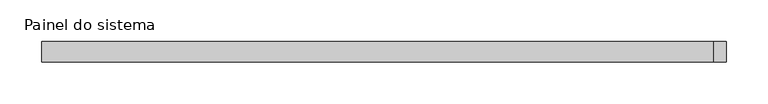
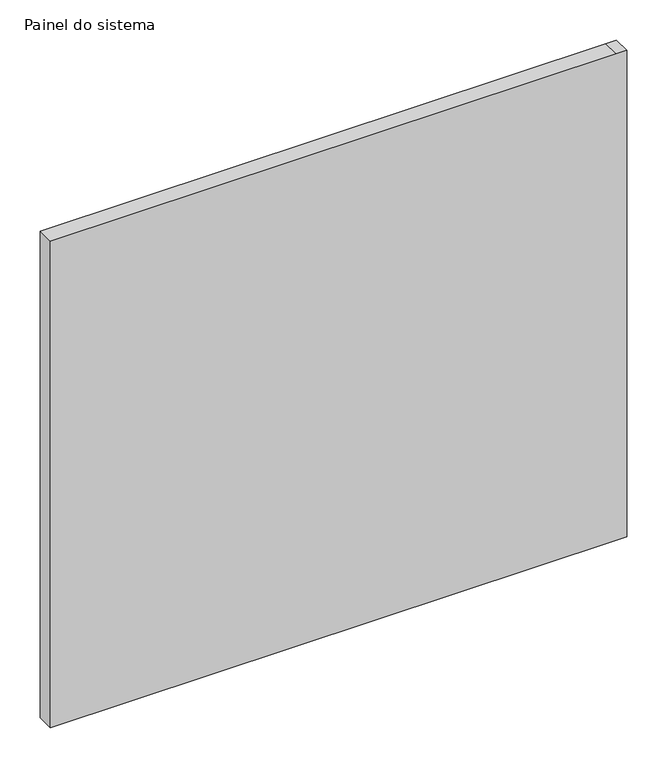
"""IFC4 building model written with IfcOpenShell, lengths in millimetres: plate geometry, Painel do sistema : Envidraçado."""

from ifc_helpers import new_model, si_unit, frame, origin, place, context, project, spatial, polyline, outline, extrude, source, transform, mapped, element, save


def painel_do_sistema_46c0dc8e(model_context):
    return source(origin(), model_context, "Body", "SweptSolid", [
        extrude(outline(polyline([(0.0, -411.666496), (0.0, 396.666496), (0.0, 411.666496), (735.0, 411.666496), (735.0, 396.666496), (735.0, -411.666496), (0.0, -411.666496)])), frame((0.0, 24.5, 0.0), z_axis=(0.0, 1.0, 0.0), x_axis=(0.0, 0.0, 1.0)), (0.0, 0.0, 1.0), 25.0),
    ])


if __name__ == "__main__":
    model = new_model("IFC4")
    model_context = context("Model", 3, world=origin())
    ifc_project = project(units=[si_unit("LENGTHUNIT", "METRE", prefix="MILLI")], contexts=[model_context])
    site = spatial("IfcSite", under=ifc_project)
    building = spatial("IfcBuilding", under=site)
    placement = place(None, origin())
    painel_do_sistema_shape = painel_do_sistema_46c0dc8e(model_context)
    element("IfcPlate", 1, ObjectType="Painel do sistema : Envidraçado", at=placement, inside=building, context=model_context, shape_type="MappedRepresentation", body=[
        mapped(painel_do_sistema_shape, transform((0.0, 0.0, 0.0), x_axis=(1.0, 0.0, 0.0), y_axis=(0.0, 1.0, 0.0), z_axis=(0.0, 0.0, 1.0))),
    ])
    save(model, "model.ifc")
